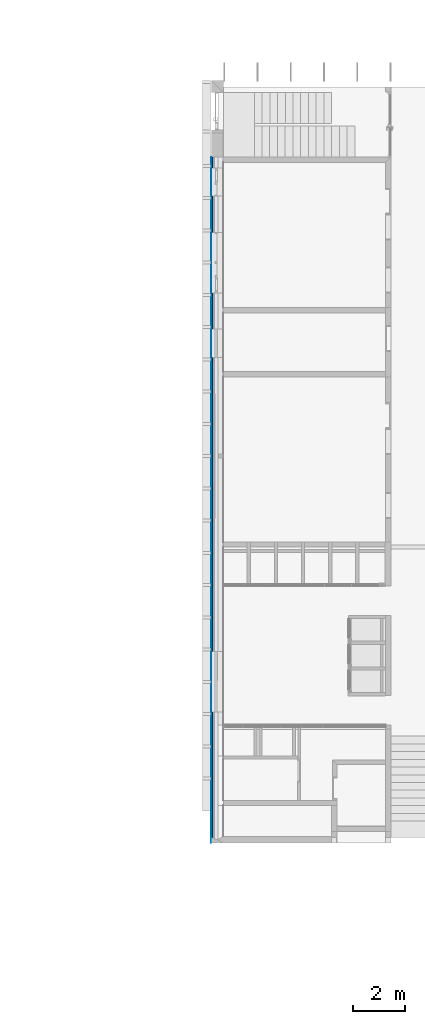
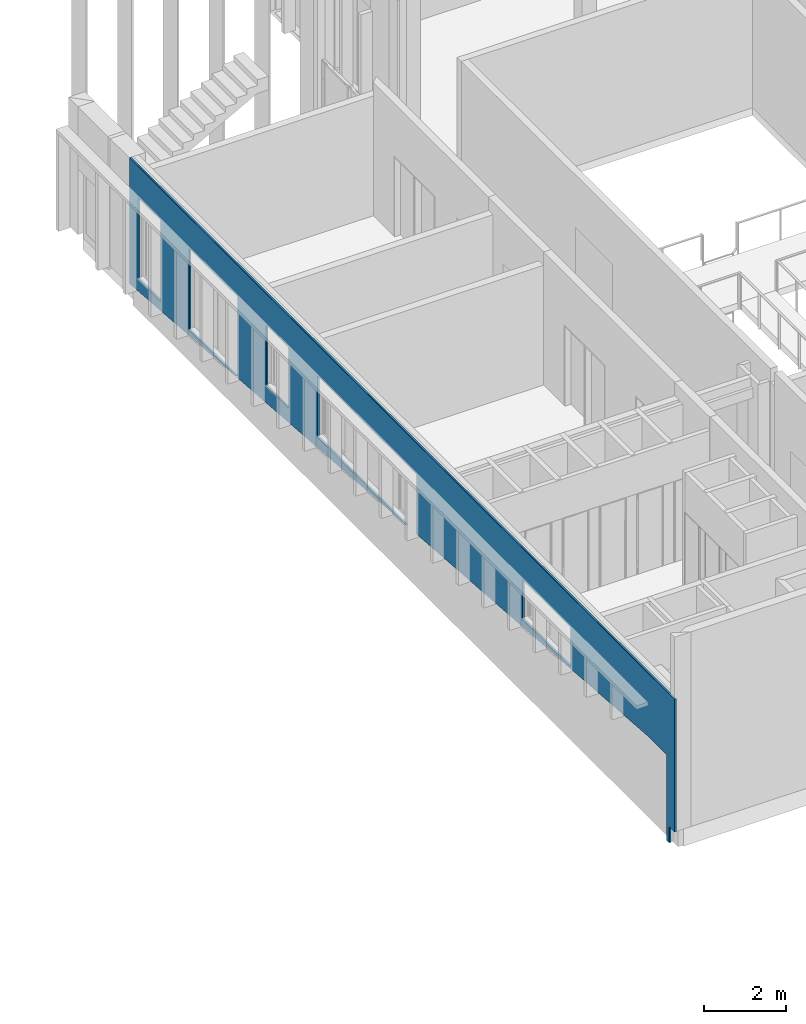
# One storey, part 81 of 89: 2 building element parts, 5 openings, 1 element without a shape of its own.
"""IFC2X3 building model written with IfcOpenShell, lengths in millimetres."""

from ifc_helpers import new_model, entity, si_unit, converted_unit, derived_unit, money_unit, direction, frame, origin_with_axes, origin_2d_with_axis, place, context, subcontext, project, spatial, polyline, rectangle, outline, extrude, boolean, faceted_brep, material, type_object, element, aggregate, save


model = new_model("IFC2X3")

# Units and contexts
model_context = context("Model", 3, precision=0.01, world=origin_with_axes(), true_north=direction((0.0, 1.0)))
body_context = subcontext(model_context, "Body", "Model", "MODEL_VIEW")
ifc_project = project(units=[si_unit("LENGTHUNIT", "METRE", prefix="MILLI"), si_unit("AREAUNIT", "SQUARE_METRE"), si_unit("VOLUMEUNIT", "CUBIC_METRE"), converted_unit("PLANEANGLEUNIT", "DEGREE", entity("IfcPlaneAngleMeasure", 0.0174532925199), si_unit("PLANEANGLEUNIT", "RADIAN"), dimensions=[0, 0, 0, 0, 0, 0, 0]), si_unit("SOLIDANGLEUNIT", "STERADIAN"), money_unit("EUR"), converted_unit("TIMEUNIT", "Year", entity("IfcTimeMeasure", 31556926.0), si_unit("TIMEUNIT", "SECOND"), dimensions=[0, 0, 1, 0, 0, 0, 0]), si_unit("MASSUNIT", "GRAM", prefix="KILO"), si_unit("THERMODYNAMICTEMPERATUREUNIT", "DEGREE_CELSIUS"), si_unit("LUMINOUSINTENSITYUNIT", "LUMEN"), si_unit("ENERGYUNIT", "JOULE", prefix="MEGA"), derived_unit("THERMALCONDUCTANCEUNIT", [(si_unit("POWERUNIT", "WATT"), 1), (si_unit("LENGTHUNIT", "METRE"), -1), (si_unit("THERMODYNAMICTEMPERATUREUNIT", "KELVIN"), -1)]), derived_unit("SPECIFICHEATCAPACITYUNIT", [(si_unit("ENERGYUNIT", "JOULE"), 1), (si_unit("MASSUNIT", "GRAM", prefix="KILO"), -1), (si_unit("THERMODYNAMICTEMPERATUREUNIT", "KELVIN"), -1)]), derived_unit("MASSDENSITYUNIT", [(si_unit("MASSUNIT", "GRAM", prefix="KILO"), 1), (si_unit("VOLUMEUNIT", "CUBIC_METRE"), -1)])], contexts=[model_context])

# Site, building, storey
site_placement = place(None, origin_with_axes())
site = spatial("IfcSite", under=ifc_project, at=site_placement, Name="Puškini 31, Narva", CompositionType="ELEMENT")
building_placement = place(site_placement, origin_with_axes())
building = spatial("IfcBuilding", under=site, at=building_placement, Name="Narva Riigigümnaasium", CompositionType="ELEMENT")
storey_placement = place(building_placement, frame((0.0, 0.0, -3300.0), z_axis=(0.0, 0.0, 1.0), x_axis=(1.0, 0.0, 0.0)))
storey = spatial("IfcBuildingStorey", under=building, at=storey_placement, Name="1.korrus -3.3", CompositionType="ELEMENT", Elevation=-3300.0)

# Wall, openings, building element parts
wall_type = type_object("IfcWallType", Name="G-VS-01 468", PredefinedType="NOTDEFINED")
wall_placement = place(storey_placement, frame((28400.0401775, 194950.0, -470.0), z_axis=(0.0, 0.0, 1.0), x_axis=(0.0, 1.0, 0.0)))
wall = element("IfcWall", 1, at=wall_placement, inside=storey, type_object=wall_type, Name="Välissein")
opening_1_placement = place(wall_placement, frame((22239.786406, 0.0, 1070.0), z_axis=(0.0, 0.0, 1.0), x_axis=(1.0, 0.0, 0.0)))
element("IfcOpeningElement", 2, at=opening_1_placement, cuts=wall, Name="G-A-13", context=body_context, shape_type="SweptSolid", body=[
    extrude(rectangle(XDim=2349.99999895, YDim=2430.0, at=origin_2d_with_axis()), frame((0.0, 308.0, 1215.0), z_axis=(0.0, -1.0, 0.0), x_axis=(1.0, 0.0, 0.0)), (0.0, 0.0, 1.0), 786.0),
    extrude(rectangle(XDim=2349.99999895, YDim=2430.0, at=origin_2d_with_axis()), frame((0.0, 308.0, 1215.0), z_axis=(0.0, 1.0, 0.0), x_axis=(1.0, 0.0, 0.0)), (0.0, 0.0, 1.0), 618.0),
])
opening_2_placement = place(wall_placement, frame((5989.77846398, 0.0, 2320.0), z_axis=(0.0, 0.0, 1.0), x_axis=(1.0, 0.0, 0.0)))
element("IfcOpeningElement", 3, at=opening_2_placement, cuts=wall, Name="G-A-31", context=body_context, shape_type="SweptSolid", body=[
    extrude(rectangle(XDim=2350.00149091, YDim=1180.0, at=origin_2d_with_axis()), frame((0.0, 308.0, 590.0), z_axis=(0.0, 1.0, 0.0), x_axis=(-1.0, 0.0, 0.0)), (0.0, 0.0, -1.0), 786.0),
    extrude(rectangle(XDim=2350.00149091, YDim=1180.0, at=origin_2d_with_axis()), frame((0.0, 308.0, 590.0), z_axis=(0.0, -1.0, 0.0), x_axis=(-1.0, 0.0, 0.0)), (0.0, 0.0, -1.0), 618.0),
])
opening_3_placement = place(wall_placement, frame((19114.7792041, 0.0, 1680.0), z_axis=(0.0, 0.0, 1.0), x_axis=(1.0, 0.0, 0.0)))
element("IfcOpeningElement", 4, at=opening_3_placement, cuts=wall, Name="G-A-28", context=body_context, shape_type="SweptSolid", body=[
    extrude(rectangle(XDim=1099.99999951, YDim=1820.0, at=origin_2d_with_axis()), frame((0.0, 308.0, 910.0), z_axis=(0.0, 1.0, 0.0), x_axis=(-1.0, 0.0, 0.0)), (0.0, 0.0, -1.0), 786.0),
    extrude(rectangle(XDim=1099.99999951, YDim=1820.0, at=origin_2d_with_axis()), frame((0.0, 308.0, 910.0), z_axis=(0.0, -1.0, 0.0), x_axis=(-1.0, 0.0, 0.0)), (0.0, 0.0, -1.0), 618.0),
])
opening_4_placement = place(wall_placement, frame((25364.7792014, 0.0, 1070.0), z_axis=(0.0, 0.0, 1.0), x_axis=(1.0, 0.0, 0.0)))
element("IfcOpeningElement", 5, at=opening_4_placement, cuts=wall, Name="G-A-03", context=body_context, shape_type="SweptSolid", body=[
    extrude(rectangle(XDim=1099.99999951, YDim=2430.0, at=origin_2d_with_axis()), frame((0.0, 308.0, 1215.0), z_axis=(0.0, 1.0, 0.0), x_axis=(-1.0, 0.0, 0.0)), (0.0, 0.0, -1.0), 786.0),
    extrude(rectangle(XDim=1099.99999951, YDim=2430.0, at=origin_2d_with_axis()), frame((0.0, 308.0, 1215.0), z_axis=(0.0, -1.0, 0.0), x_axis=(-1.0, 0.0, 0.0)), (0.0, 0.0, -1.0), 618.0),
])
opening_5_placement = place(wall_placement, frame((14739.7780345, 0.0, 1680.0), z_axis=(0.0, 0.0, 1.0), x_axis=(1.0, 0.0, 0.0)))
element("IfcOpeningElement", 6, at=opening_5_placement, cuts=wall, Name="G-A-32", context=body_context, shape_type="SweptSolid", body=[
    extrude(rectangle(XDim=4850.0, YDim=1820.0, at=origin_2d_with_axis()), frame((0.0, 308.0, 910.0), z_axis=(0.0, 1.0, 0.0), x_axis=(-1.0, 0.0, 0.0)), (0.0, 0.0, -1.0), 786.0),
    extrude(rectangle(XDim=4850.0, YDim=1820.0, at=origin_2d_with_axis()), frame((0.0, 308.0, 910.0), z_axis=(0.0, -1.0, 0.0), x_axis=(-1.0, 0.0, 0.0)), (0.0, 0.0, -1.0), 618.0),
])
ifc_material_1 = material(Name="Salto-roovitus")
building_element_part_1_placement = place(wall_placement, origin_with_axes())
solid_1 = boolean("DIFFERENCE", boolean("DIFFERENCE", boolean("DIFFERENCE", boolean("DIFFERENCE", boolean("DIFFERENCE", boolean("DIFFERENCE", boolean("DIFFERENCE", boolean("DIFFERENCE", extrude(outline(polyline([(-250.000000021, 400.0), (26329.9999995, 400.0), (26329.9999995, 450.0), (-250.000000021, 450.0), (-250.000000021, 400.0)])), frame((0.0, 0.0, -3.77662452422e-05), z_axis=(0.0, 0.0, 1.0), x_axis=(1.0, 0.0, 0.0)), (0.0, 0.0, 1.0), 4430.00003777), faceted_brep([(1190.52853669, 0.0, 4025.0), (1190.52853669, 0.0, 4430.0), (26329.9999995, 0.0, 4430.0), (26329.9999995, 0.0, -3.77662452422e-05), (-250.000000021, 0.0, -3.77662452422e-05), (-250.000000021, 0.0, 4430.0), (2.070521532e-07, 0.0, 4430.0), (2.070521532e-07, 0.0, 470.0), (1049.7643016, 0.0, 470.0), (1049.7643016, 0.0, 2544.59009685), (1199.99999458, 0.0, 2533.56443721), (1199.99999458, 0.0, 4025.0), (1399.99999458, 0.0, 2518.88662074), (3009.99970185, 0.0, 2400.73021962), (3009.99970185, 0.0, 4025.0), (1399.99999458, 0.0, 4025.0), (3109.99970185, 0.0, 2393.39131138), (11024.9997106, 0.0, 1812.51672386), (11024.9997106, 0.0, 4025.0), (9809.99971924, 0.0, 4025.0), (9809.99971924, 0.0, 2870.0), (9709.99971924, 0.0, 2870.0), (9709.99971924, 0.0, 4025.0), (4309.99971617, 0.0, 4025.0), (4309.99971617, 0.0, 2870.0), (4159.99971617, 0.0, 2870.0), (4159.99971617, 0.0, 4025.0), (3109.99970185, 0.0, 4025.0), (11115.4997106, 0.0, 1805.87501191), (11209.9997093, 0.0, 1798.93974372), (11209.9997107, 0.0, 4025.0), (11115.4997106, 0.0, 4025.0), (11409.9997107, 0.0, 1784.26192714), (17820.0010182, 0.0, 1313.83781325), (17820.0010182, 0.0, 4025.0), (11409.9997107, 0.0, 4025.0), (18020.0010182, 0.0, 1299.15999678), (20290.0000006, 0.0, 1132.56685451), (20290.0000006, 0.0, 4025.0), (18020.0010182, 0.0, 4025.0), (20500.0000006, 0.0, 1117.15514721), (26129.9999995, 0.0, 703.974613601), (26129.9999995, 0.0, 4025.0), (20500.0000006, 0.0, 4025.0), (1190.52734088, -10.0, 4025.0), (1190.52734088, -10.0, 4430.0), (26329.9999995, -10.0, 4430.0), (26329.9999995, -10.0, -3.77662452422e-05), (-250.000000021, -10.0, -3.77662452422e-05), (-250.000000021, -10.0, 4430.0), (2.070521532e-07, -10.0, 4430.0), (2.070521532e-07, -10.0, 470.0), (1049.7643016, -10.0, 470.0), (1049.7643016, -10.0, 2544.59009685), (1199.99999458, -10.0, 2533.56443721), (1199.99999458, -10.0, 4025.0), (1399.99999458, -10.0, 2518.88662074), (3009.99970185, -10.0, 2400.73021962), (3009.99970185, -10.0, 4025.0), (1399.99999458, -10.0, 4025.0), (3109.99970185, -10.0, 2393.39131138), (11024.9997106, -10.0, 1812.51672386), (11024.9997106, -10.0, 4025.0), (9809.99971924, -10.0, 4025.0), (9809.99971924, -10.0, 2870.0), (9709.99971924, -10.0, 2870.0), (9709.99971924, -10.0, 4025.0), (4309.99971617, -10.0, 4025.0), (4309.99971617, -10.0, 2870.0), (4159.99971617, -10.0, 2870.0), (4159.99971617, -10.0, 4025.0), (3109.99970185, -10.0, 4025.0), (11115.4997106, -10.0, 1805.87501191), (11209.9997093, -10.0, 1798.93974372), (11209.9997107, -10.0, 4025.0), (11115.4997106, -10.0, 4025.0), (11409.9997107, -10.0, 1784.26192714), (17820.0010182, -10.0, 1313.83781325), (17820.0010182, -10.0, 4025.0), (11409.9997107, -10.0, 4025.0), (18020.0010182, -10.0, 1299.15999678), (20290.0000006, -10.0, 1132.56685451), (20290.0000006, -10.0, 4025.0), (18020.0010182, -10.0, 4025.0), (20500.0000006, -10.0, 1117.15514721), (26129.9999995, -10.0, 703.974613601), (26129.9999995, -10.0, 4025.0), (20500.0000006, -10.0, 4025.0)], [[[0, 1, 2, 3, 4, 5, 6, 7, 8, 9, 10, 11], [12, 13, 14, 15], [16, 17, 18, 19, 20, 21, 22, 23, 24, 25, 26, 27], [28, 29, 30, 31], [32, 33, 34, 35], [36, 37, 38, 39], [40, 41, 42, 43]], [[44, 45, 1, 0]], [[1, 45, 46, 2]], [[2, 46, 47, 3]], [[3, 47, 48, 4]], [[49, 5, 4, 48]], [[50, 6, 5, 49]], [[6, 50, 51, 7]], [[51, 52, 8, 7]], [[52, 53, 9, 8]], [[53, 54, 10, 9]], [[54, 55, 11, 10]], [[55, 44, 0, 11]], [[56, 57, 13, 12]], [[57, 58, 14, 13]], [[58, 59, 15, 14]], [[59, 56, 12, 15]], [[60, 61, 17, 16]], [[61, 62, 18, 17]], [[62, 63, 19, 18]], [[63, 64, 20, 19]], [[64, 65, 21, 20]], [[65, 66, 22, 21]], [[66, 67, 23, 22]], [[67, 68, 24, 23]], [[68, 69, 25, 24]], [[69, 70, 26, 25]], [[70, 71, 27, 26]], [[71, 60, 16, 27]], [[72, 73, 29, 28]], [[73, 74, 30, 29]], [[74, 75, 31, 30]], [[75, 72, 28, 31]], [[76, 77, 33, 32]], [[77, 78, 34, 33]], [[78, 79, 35, 34]], [[79, 76, 32, 35]], [[80, 81, 37, 36]], [[81, 82, 38, 37]], [[82, 83, 39, 38]], [[83, 80, 36, 39]], [[84, 85, 41, 40]], [[85, 86, 42, 41]], [[86, 87, 43, 42]], [[87, 84, 40, 43]], [[45, 44, 55, 54, 53, 52, 51, 50, 49, 48, 47, 46], [64, 63, 62, 61, 60, 71, 70, 69, 68, 67, 66, 65], [56, 59, 58, 57], [72, 75, 74, 73], [76, 79, 78, 77], [80, 83, 82, 81], [84, 87, 86, 85]]])), faceted_brep([(0.0, 0.0, 0.0), (2.070521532e-07, 0.0, 470.0), (2.070521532e-07, 0.0, 4430.0), (-250.000000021, 0.0, 4430.0), (-250.000000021, 0.0, -3.77662452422e-05), (0.0, 200.0, 0.0), (2.070521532e-07, 200.0, 470.0), (2.070521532e-07, 200.0, 4430.0), (-250.000000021, 200.0, 4430.0), (-250.000000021, 200.0, -3.77662452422e-05)], [[[0, 1, 2, 3, 4]], [[1, 0, 5, 6]], [[7, 2, 1, 6]], [[2, 7, 8, 3]], [[3, 8, 9, 4]], [[5, 0, 4, 9]], [[6, 5, 9, 8, 7]]])), faceted_brep([(20500.0000006, 0.0, 4025.0), (26329.9999807, 0.0, 4025.0), (26329.9999995, 0.0, 4430.0), (1190.52853669, 0.0, 4430.0), (1190.52853669, 0.0, 4025.0), (20300.0000006, 0.0, 4025.0), (20300.0000006, 0.0, 1131.83296368), (20290.0000006, 0.0, 1132.56685451), (18020.0010182, 0.0, 1299.15999678), (17820.0010182, 0.0, 1313.83781325), (11409.9997107, 0.0, 1784.26192714), (11209.9997093, 0.0, 1798.93974372), (11115.4997106, 0.0, 1805.87501191), (11024.9997106, 0.0, 1812.51672386), (3109.99970185, 0.0, 2393.39131138), (3009.99970185, 0.0, 2400.73021962), (1399.99999458, 0.0, 2518.88662074), (1199.99999458, 0.0, 2533.56443721), (1049.7643016, 0.0, 2544.59009685), (1049.7643016, 0.0, 470.0), (1049.7643016, 0.0, 0.0), (26329.9999995, 0.0, -3.77662452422e-05), (26329.9999959, 0.0, 689.296797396), (26129.9999995, 0.0, 703.974613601), (20500.0000006, 0.0, 1117.15514721), (26329.9999807, 200.0, 4025.0), (20500.0000006, 0.53657374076, 4025.0), (20300.0000006, 0.53657374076, 4025.0), (1190.55245282, 200.0, 4025.0), (26329.9999995, 200.0, 4430.0), (1190.55245282, 200.0, 4430.0), (20300.0000006, 0.53657374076, 1131.83296368), (26329.9999974, 200.0, 689.29679728), (1049.7643016, 200.0, 2544.59009685), (1049.7643016, 76.496918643, 2544.59009685), (20500.0000006, 0.53657374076, 1117.15514721), (1049.7643016, 76.496918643, -3.77662452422e-05), (126.000000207, 76.496918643, -3.77662452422e-05), (126.000000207, 200.0, -3.77662452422e-05), (26329.9999995, 200.0, -3.77662452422e-05), (126.000000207, 200.0, 2544.59009685), (126.000000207, 76.496918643, 2544.59009685)], [[[0, 1, 2, 3, 4, 5, 6, 7, 8, 9, 10, 11, 12, 13, 14, 15, 16, 17, 18, 19, 20, 21, 22, 23, 24]], [[25, 1, 0, 26, 27, 5, 4, 28]], [[1, 25, 29, 2]], [[30, 3, 2, 29]], [[3, 30, 28, 4]], [[6, 5, 27, 31]], [[23, 22, 32, 33, 34, 18, 17, 16, 15, 14, 13, 12, 11, 10, 9, 8, 7, 6, 31, 35, 24]], [[19, 18, 34, 36, 20]], [[37, 38, 39, 21, 20, 36]], [[32, 22, 21, 39]], [[26, 0, 24, 35]], [[27, 26, 35, 31]], [[28, 30, 29, 25]], [[33, 32, 39, 38, 40]], [[33, 40, 41, 34]], [[37, 36, 34, 41]], [[38, 37, 41, 40]]])), faceted_brep([(14664.7643016, 25.3626792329, 3570.0), (14664.7643016, 25.3626792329, 1580.0), (14814.7643016, 25.3626792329, 1580.0), (14814.7643016, 25.3626792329, 3570.0), (14664.7643016, 175.362679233, 3570.0), (14664.7643016, 175.362679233, 1580.0), (14814.7643016, 175.362679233, 1580.0), (14814.7643016, 175.362679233, 3570.0)], [[[0, 1, 2, 3]], [[4, 5, 1, 0]], [[2, 1, 5, 6]], [[3, 2, 6, 7]], [[4, 0, 3, 7]], [[7, 6, 5, 4]]])), faceted_brep([(2.070521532e-07, 200.0, 470.0), (-249.999999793, 200.0, 470.0), (-250.000000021, 200.0, -3.77662452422e-05), (0.0, 200.0, 0.0), (5.17559328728e-08, 350.0, 470.0), (-249.999999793, 350.0, 470.0), (-250.000000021, 350.0, -3.77662452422e-05), (0.0, 350.0, 0.0)], [[[0, 1, 2, 3]], [[1, 0, 4, 5]], [[1, 5, 6, 2]], [[7, 3, 2, 6]], [[0, 3, 7, 4]], [[4, 7, 6, 5]]])), faceted_brep([(26329.9999986, 350.0, 689.296797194), (26329.9999974, 200.0, 689.29679728), (26329.9999995, 200.0, -3.77662452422e-05), (26329.9999995, 350.0, -3.77662452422e-05), (1049.7643016, 200.0, 2544.59009685), (1049.7643016, 350.0, 2544.59009685), (126.000000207, 200.0, 2544.59009685), (126.000000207, 200.0, -3.77662452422e-05), (126.000000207, 350.0, -3.77662452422e-05), (126.000000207, 350.0, 2544.59009685)], [[[0, 1, 2, 3]], [[4, 1, 0, 5]], [[6, 7, 2, 1, 4]], [[7, 8, 3, 2]], [[5, 0, 3, 8, 9]], [[6, 4, 5, 9]], [[7, 6, 9, 8]]])), faceted_brep([(1190.55245282, 200.0, 4430.0), (1190.55245282, 200.0, 4025.0), (26329.9999807, 200.0, 4025.0), (26329.9999995, 200.0, 4430.0), (1190.56670296, 319.167572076, 4430.0), (1190.56670296, 319.167572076, 4025.0), (26329.9999807, 200.721723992, 4025.0), (1550.00000039, 319.151333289, 4025.0), (5649.99999723, 318.966099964, 4025.0), (5649.99999723, 200.721723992, 4025.0), (26329.9999807, 200.721723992, 4430.0), (5649.99999723, 200.721723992, 4430.0), (5649.99999723, 319.15132641, 4430.0), (1550.00000039, 319.151333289, 4430.0), (1550.00000039, 319.151333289, 4290.0), (5649.99999723, 318.966099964, 4290.0), (5649.99999723, 319.15132641, 4290.0)], [[[0, 1, 2, 3]], [[0, 4, 5, 1]], [[6, 2, 1, 5, 7, 8, 9]], [[6, 10, 3, 2]], [[4, 0, 3, 10, 11, 12, 13]], [[4, 13, 14, 7, 5]], [[15, 8, 7, 14]], [[12, 11, 9, 8, 15, 16]], [[11, 10, 6, 9]], [[13, 12, 16, 14]], [[16, 15, 14]]])), faceted_brep([(5.17559328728e-08, 350.0, 470.0), (-249.999999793, 350.0, 470.0), (-250.000000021, 350.0, -3.77662452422e-05), (0.0, 350.0, 0.0), (0.0, 400.0, 470.0), (-249.999999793, 400.0, 470.0), (-250.000000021, 400.0, -3.77662452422e-05), (0.0, 400.0, 0.0)], [[[0, 1, 2, 3]], [[1, 0, 4, 5]], [[1, 5, 6, 2]], [[7, 3, 2, 6]], [[0, 3, 7, 4]], [[4, 7, 6, 5]]]))
building_element_part_1 = element("IfcBuildingElementPart", 7, at=building_element_part_1_placement, material=ifc_material_1, Name="Salto-roovitus", context=body_context, shape_type="CSG", body=[
    boolean("DIFFERENCE", boolean("DIFFERENCE", boolean("DIFFERENCE", boolean("DIFFERENCE", boolean("DIFFERENCE", solid_1, faceted_brep([(26329.999999, 400.0, 689.296797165), (26329.9999986, 350.0, 689.296797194), (26329.9999995, 350.0, -3.77662452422e-05), (26329.9999995, 400.0, -3.77662452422e-05), (1049.7643016, 350.0, 2544.59009685), (1049.7643016, 400.0, 2544.59009685), (126.000000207, 350.0, 2544.59009685), (126.000000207, 350.0, -3.77662452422e-05), (126.000000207, 400.0, -3.77662452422e-05), (126.000000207, 400.0, 2544.59009685)], [[[0, 1, 2, 3]], [[4, 1, 0, 5]], [[6, 7, 2, 1, 4]], [[7, 8, 3, 2]], [[5, 0, 3, 8, 9]], [[6, 4, 5, 9]], [[7, 6, 9, 8]]])), faceted_brep([(0.0, 400.0, 470.0), (-249.999999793, 400.0, 470.0), (-250.000000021, 400.0, -3.77662452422e-05), (0.0, 400.0, 0.0), (0.0, 450.0, 470.0), (-249.999999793, 450.0, 470.0), (-250.000000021, 450.0, -3.77662452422e-05), (0.0, 450.0, 0.0)], [[[0, 1, 2, 3]], [[1, 0, 4, 5]], [[1, 5, 6, 2]], [[7, 3, 2, 6]], [[0, 3, 7, 4]], [[4, 7, 6, 5]]])), faceted_brep([(26329.999999, 450.0, 689.296797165), (26329.999999, 400.0, 689.296797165), (26329.9999995, 400.0, -3.77662452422e-05), (26329.9999995, 450.0, -3.77662452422e-05), (1049.7643016, 400.0, 2544.59009685), (1049.7643016, 450.0, 2544.59009685), (126.000000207, 400.0, 2544.59009685), (126.000000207, 400.0, -3.77662452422e-05), (126.000000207, 450.0, -3.77662452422e-05), (126.000000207, 450.0, 2544.59009685)], [[[0, 1, 2, 3]], [[4, 1, 0, 5]], [[6, 7, 2, 1, 4]], [[7, 8, 3, 2]], [[5, 0, 3, 8, 9]], [[6, 4, 5, 9]], [[7, 6, 9, 8]]])), faceted_brep([(0.0, 450.0, 470.0), (-249.999999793, 450.0, 470.0), (-250.000000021, 450.0, -3.77662452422e-05), (0.0, 450.0, 0.0), (0.0, 458.000002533, 470.0), (-249.999999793, 458.000002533, 470.0), (-250.000000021, 458.0, -3.77662452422e-05), (0.0, 458.000002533, 0.0)], [[[0, 1, 2, 3]], [[1, 0, 4, 5]], [[1, 5, 6, 2]], [[7, 3, 2, 6]], [[0, 3, 7, 4]], [[4, 7, 6, 5]]])), faceted_brep([(26329.999999, 457.999977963, 689.296797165), (26329.999999, 450.0, 689.296797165), (26329.9999995, 450.0, -3.77662452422e-05), (26329.9999995, 458.0, -3.77662452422e-05), (1049.7643016, 450.0, 2544.59009685), (1049.7643016, 458.0, 2544.59009685), (126.000000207, 450.0, 2544.59009685), (126.000000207, 450.0, -3.77662452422e-05), (126.000000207, 458.000002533, -3.77662452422e-05), (126.000000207, 458.0, 2544.59009685)], [[[0, 1, 2, 3]], [[4, 1, 0, 5]], [[6, 7, 2, 1, 4]], [[7, 8, 3, 2]], [[5, 0, 3, 8, 9]], [[6, 4, 5, 9]], [[7, 6, 9, 8]]])),
])
ifc_material_2 = material(Name="fassaadiplaat")
building_element_part_2_placement = place(wall_placement, origin_with_axes())
solid_2 = boolean("DIFFERENCE", boolean("DIFFERENCE", boolean("DIFFERENCE", boolean("DIFFERENCE", boolean("DIFFERENCE", boolean("DIFFERENCE", boolean("DIFFERENCE", boolean("DIFFERENCE", extrude(outline(polyline([(-250.000000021, 450.0), (26329.9999995, 450.0), (26329.9999995, 458.0), (-250.000000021, 458.0), (-250.000000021, 450.0)])), frame((0.0, 0.0, -3.77662452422e-05), z_axis=(0.0, 0.0, 1.0), x_axis=(1.0, 0.0, 0.0)), (0.0, 0.0, 1.0), 4430.00003777), faceted_brep([(1190.52853669, 0.0, 4025.0), (1190.52853669, 0.0, 4430.0), (26329.9999995, 0.0, 4430.0), (26329.9999995, 0.0, -3.77662452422e-05), (-250.000000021, 0.0, -3.77662452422e-05), (-250.000000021, 0.0, 4430.0), (2.070521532e-07, 0.0, 4430.0), (2.070521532e-07, 0.0, 470.0), (1049.7643016, 0.0, 470.0), (1049.7643016, 0.0, 2544.59009685), (1199.99999458, 0.0, 2533.56443721), (1199.99999458, 0.0, 4025.0), (1399.99999458, 0.0, 2518.88662074), (3009.99970185, 0.0, 2400.73021962), (3009.99970185, 0.0, 4025.0), (1399.99999458, 0.0, 4025.0), (3109.99970185, 0.0, 2393.39131138), (11024.9997106, 0.0, 1812.51672386), (11024.9997106, 0.0, 4025.0), (9809.99971924, 0.0, 4025.0), (9809.99971924, 0.0, 2870.0), (9709.99971924, 0.0, 2870.0), (9709.99971924, 0.0, 4025.0), (4309.99971617, 0.0, 4025.0), (4309.99971617, 0.0, 2870.0), (4159.99971617, 0.0, 2870.0), (4159.99971617, 0.0, 4025.0), (3109.99970185, 0.0, 4025.0), (11115.4997106, 0.0, 1805.87501191), (11209.9997093, 0.0, 1798.93974372), (11209.9997107, 0.0, 4025.0), (11115.4997106, 0.0, 4025.0), (11409.9997107, 0.0, 1784.26192714), (17820.0010182, 0.0, 1313.83781325), (17820.0010182, 0.0, 4025.0), (11409.9997107, 0.0, 4025.0), (18020.0010182, 0.0, 1299.15999678), (20290.0000006, 0.0, 1132.56685451), (20290.0000006, 0.0, 4025.0), (18020.0010182, 0.0, 4025.0), (20500.0000006, 0.0, 1117.15514721), (26129.9999995, 0.0, 703.974613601), (26129.9999995, 0.0, 4025.0), (20500.0000006, 0.0, 4025.0), (1190.52734088, -10.0, 4025.0), (1190.52734088, -10.0, 4430.0), (26329.9999995, -10.0, 4430.0), (26329.9999995, -10.0, -3.77662452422e-05), (-250.000000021, -10.0, -3.77662452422e-05), (-250.000000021, -10.0, 4430.0), (2.070521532e-07, -10.0, 4430.0), (2.070521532e-07, -10.0, 470.0), (1049.7643016, -10.0, 470.0), (1049.7643016, -10.0, 2544.59009685), (1199.99999458, -10.0, 2533.56443721), (1199.99999458, -10.0, 4025.0), (1399.99999458, -10.0, 2518.88662074), (3009.99970185, -10.0, 2400.73021962), (3009.99970185, -10.0, 4025.0), (1399.99999458, -10.0, 4025.0), (3109.99970185, -10.0, 2393.39131138), (11024.9997106, -10.0, 1812.51672386), (11024.9997106, -10.0, 4025.0), (9809.99971924, -10.0, 4025.0), (9809.99971924, -10.0, 2870.0), (9709.99971924, -10.0, 2870.0), (9709.99971924, -10.0, 4025.0), (4309.99971617, -10.0, 4025.0), (4309.99971617, -10.0, 2870.0), (4159.99971617, -10.0, 2870.0), (4159.99971617, -10.0, 4025.0), (3109.99970185, -10.0, 4025.0), (11115.4997106, -10.0, 1805.87501191), (11209.9997093, -10.0, 1798.93974372), (11209.9997107, -10.0, 4025.0), (11115.4997106, -10.0, 4025.0), (11409.9997107, -10.0, 1784.26192714), (17820.0010182, -10.0, 1313.83781325), (17820.0010182, -10.0, 4025.0), (11409.9997107, -10.0, 4025.0), (18020.0010182, -10.0, 1299.15999678), (20290.0000006, -10.0, 1132.56685451), (20290.0000006, -10.0, 4025.0), (18020.0010182, -10.0, 4025.0), (20500.0000006, -10.0, 1117.15514721), (26129.9999995, -10.0, 703.974613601), (26129.9999995, -10.0, 4025.0), (20500.0000006, -10.0, 4025.0)], [[[0, 1, 2, 3, 4, 5, 6, 7, 8, 9, 10, 11], [12, 13, 14, 15], [16, 17, 18, 19, 20, 21, 22, 23, 24, 25, 26, 27], [28, 29, 30, 31], [32, 33, 34, 35], [36, 37, 38, 39], [40, 41, 42, 43]], [[44, 45, 1, 0]], [[1, 45, 46, 2]], [[2, 46, 47, 3]], [[3, 47, 48, 4]], [[49, 5, 4, 48]], [[50, 6, 5, 49]], [[6, 50, 51, 7]], [[51, 52, 8, 7]], [[52, 53, 9, 8]], [[53, 54, 10, 9]], [[54, 55, 11, 10]], [[55, 44, 0, 11]], [[56, 57, 13, 12]], [[57, 58, 14, 13]], [[58, 59, 15, 14]], [[59, 56, 12, 15]], [[60, 61, 17, 16]], [[61, 62, 18, 17]], [[62, 63, 19, 18]], [[63, 64, 20, 19]], [[64, 65, 21, 20]], [[65, 66, 22, 21]], [[66, 67, 23, 22]], [[67, 68, 24, 23]], [[68, 69, 25, 24]], [[69, 70, 26, 25]], [[70, 71, 27, 26]], [[71, 60, 16, 27]], [[72, 73, 29, 28]], [[73, 74, 30, 29]], [[74, 75, 31, 30]], [[75, 72, 28, 31]], [[76, 77, 33, 32]], [[77, 78, 34, 33]], [[78, 79, 35, 34]], [[79, 76, 32, 35]], [[80, 81, 37, 36]], [[81, 82, 38, 37]], [[82, 83, 39, 38]], [[83, 80, 36, 39]], [[84, 85, 41, 40]], [[85, 86, 42, 41]], [[86, 87, 43, 42]], [[87, 84, 40, 43]], [[45, 44, 55, 54, 53, 52, 51, 50, 49, 48, 47, 46], [64, 63, 62, 61, 60, 71, 70, 69, 68, 67, 66, 65], [56, 59, 58, 57], [72, 75, 74, 73], [76, 79, 78, 77], [80, 83, 82, 81], [84, 87, 86, 85]]])), faceted_brep([(0.0, 0.0, 0.0), (2.070521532e-07, 0.0, 470.0), (2.070521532e-07, 0.0, 4430.0), (-250.000000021, 0.0, 4430.0), (-250.000000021, 0.0, -3.77662452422e-05), (0.0, 200.0, 0.0), (2.070521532e-07, 200.0, 470.0), (2.070521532e-07, 200.0, 4430.0), (-250.000000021, 200.0, 4430.0), (-250.000000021, 200.0, -3.77662452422e-05)], [[[0, 1, 2, 3, 4]], [[1, 0, 5, 6]], [[7, 2, 1, 6]], [[2, 7, 8, 3]], [[3, 8, 9, 4]], [[5, 0, 4, 9]], [[6, 5, 9, 8, 7]]])), faceted_brep([(20500.0000006, 0.0, 4025.0), (26329.9999807, 0.0, 4025.0), (26329.9999995, 0.0, 4430.0), (1190.52853669, 0.0, 4430.0), (1190.52853669, 0.0, 4025.0), (20300.0000006, 0.0, 4025.0), (20300.0000006, 0.0, 1131.83296368), (20290.0000006, 0.0, 1132.56685451), (18020.0010182, 0.0, 1299.15999678), (17820.0010182, 0.0, 1313.83781325), (11409.9997107, 0.0, 1784.26192714), (11209.9997093, 0.0, 1798.93974372), (11115.4997106, 0.0, 1805.87501191), (11024.9997106, 0.0, 1812.51672386), (3109.99970185, 0.0, 2393.39131138), (3009.99970185, 0.0, 2400.73021962), (1399.99999458, 0.0, 2518.88662074), (1199.99999458, 0.0, 2533.56443721), (1049.7643016, 0.0, 2544.59009685), (1049.7643016, 0.0, 470.0), (1049.7643016, 0.0, 0.0), (26329.9999995, 0.0, -3.77662452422e-05), (26329.9999959, 0.0, 689.296797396), (26129.9999995, 0.0, 703.974613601), (20500.0000006, 0.0, 1117.15514721), (26329.9999807, 200.0, 4025.0), (20500.0000006, 0.53657374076, 4025.0), (20300.0000006, 0.53657374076, 4025.0), (1190.55245282, 200.0, 4025.0), (26329.9999995, 200.0, 4430.0), (1190.55245282, 200.0, 4430.0), (20300.0000006, 0.53657374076, 1131.83296368), (26329.9999974, 200.0, 689.29679728), (1049.7643016, 200.0, 2544.59009685), (1049.7643016, 76.496918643, 2544.59009685), (20500.0000006, 0.53657374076, 1117.15514721), (1049.7643016, 76.496918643, -3.77662452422e-05), (126.000000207, 76.496918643, -3.77662452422e-05), (126.000000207, 200.0, -3.77662452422e-05), (26329.9999995, 200.0, -3.77662452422e-05), (126.000000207, 200.0, 2544.59009685), (126.000000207, 76.496918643, 2544.59009685)], [[[0, 1, 2, 3, 4, 5, 6, 7, 8, 9, 10, 11, 12, 13, 14, 15, 16, 17, 18, 19, 20, 21, 22, 23, 24]], [[25, 1, 0, 26, 27, 5, 4, 28]], [[1, 25, 29, 2]], [[30, 3, 2, 29]], [[3, 30, 28, 4]], [[6, 5, 27, 31]], [[23, 22, 32, 33, 34, 18, 17, 16, 15, 14, 13, 12, 11, 10, 9, 8, 7, 6, 31, 35, 24]], [[19, 18, 34, 36, 20]], [[37, 38, 39, 21, 20, 36]], [[32, 22, 21, 39]], [[26, 0, 24, 35]], [[27, 26, 35, 31]], [[28, 30, 29, 25]], [[33, 32, 39, 38, 40]], [[33, 40, 41, 34]], [[37, 36, 34, 41]], [[38, 37, 41, 40]]])), faceted_brep([(14664.7643016, 25.3626792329, 3570.0), (14664.7643016, 25.3626792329, 1580.0), (14814.7643016, 25.3626792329, 1580.0), (14814.7643016, 25.3626792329, 3570.0), (14664.7643016, 175.362679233, 3570.0), (14664.7643016, 175.362679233, 1580.0), (14814.7643016, 175.362679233, 1580.0), (14814.7643016, 175.362679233, 3570.0)], [[[0, 1, 2, 3]], [[4, 5, 1, 0]], [[2, 1, 5, 6]], [[3, 2, 6, 7]], [[4, 0, 3, 7]], [[7, 6, 5, 4]]])), faceted_brep([(2.070521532e-07, 200.0, 470.0), (-249.999999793, 200.0, 470.0), (-250.000000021, 200.0, -3.77662452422e-05), (0.0, 200.0, 0.0), (5.17559328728e-08, 350.0, 470.0), (-249.999999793, 350.0, 470.0), (-250.000000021, 350.0, -3.77662452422e-05), (0.0, 350.0, 0.0)], [[[0, 1, 2, 3]], [[1, 0, 4, 5]], [[1, 5, 6, 2]], [[7, 3, 2, 6]], [[0, 3, 7, 4]], [[4, 7, 6, 5]]])), faceted_brep([(26329.9999986, 350.0, 689.296797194), (26329.9999974, 200.0, 689.29679728), (26329.9999995, 200.0, -3.77662452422e-05), (26329.9999995, 350.0, -3.77662452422e-05), (1049.7643016, 200.0, 2544.59009685), (1049.7643016, 350.0, 2544.59009685), (126.000000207, 200.0, 2544.59009685), (126.000000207, 200.0, -3.77662452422e-05), (126.000000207, 350.0, -3.77662452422e-05), (126.000000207, 350.0, 2544.59009685)], [[[0, 1, 2, 3]], [[4, 1, 0, 5]], [[6, 7, 2, 1, 4]], [[7, 8, 3, 2]], [[5, 0, 3, 8, 9]], [[6, 4, 5, 9]], [[7, 6, 9, 8]]])), faceted_brep([(1190.55245282, 200.0, 4430.0), (1190.55245282, 200.0, 4025.0), (26329.9999807, 200.0, 4025.0), (26329.9999995, 200.0, 4430.0), (1190.56670296, 319.167572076, 4430.0), (1190.56670296, 319.167572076, 4025.0), (26329.9999807, 200.721723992, 4025.0), (1550.00000039, 319.151333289, 4025.0), (5649.99999723, 318.966099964, 4025.0), (5649.99999723, 200.721723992, 4025.0), (26329.9999807, 200.721723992, 4430.0), (5649.99999723, 200.721723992, 4430.0), (5649.99999723, 319.15132641, 4430.0), (1550.00000039, 319.151333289, 4430.0), (1550.00000039, 319.151333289, 4290.0), (5649.99999723, 318.966099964, 4290.0), (5649.99999723, 319.15132641, 4290.0)], [[[0, 1, 2, 3]], [[0, 4, 5, 1]], [[6, 2, 1, 5, 7, 8, 9]], [[6, 10, 3, 2]], [[4, 0, 3, 10, 11, 12, 13]], [[4, 13, 14, 7, 5]], [[15, 8, 7, 14]], [[12, 11, 9, 8, 15, 16]], [[11, 10, 6, 9]], [[13, 12, 16, 14]], [[16, 15, 14]]])), faceted_brep([(5.17559328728e-08, 350.0, 470.0), (-249.999999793, 350.0, 470.0), (-250.000000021, 350.0, -3.77662452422e-05), (0.0, 350.0, 0.0), (0.0, 400.0, 470.0), (-249.999999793, 400.0, 470.0), (-250.000000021, 400.0, -3.77662452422e-05), (0.0, 400.0, 0.0)], [[[0, 1, 2, 3]], [[1, 0, 4, 5]], [[1, 5, 6, 2]], [[7, 3, 2, 6]], [[0, 3, 7, 4]], [[4, 7, 6, 5]]]))
building_element_part_2 = element("IfcBuildingElementPart", 8, at=building_element_part_2_placement, material=ifc_material_2, Name="fassaadiplaat", context=body_context, shape_type="CSG", body=[
    boolean("DIFFERENCE", boolean("DIFFERENCE", boolean("DIFFERENCE", boolean("DIFFERENCE", boolean("DIFFERENCE", solid_2, faceted_brep([(26329.999999, 400.0, 689.296797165), (26329.9999986, 350.0, 689.296797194), (26329.9999995, 350.0, -3.77662452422e-05), (26329.9999995, 400.0, -3.77662452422e-05), (1049.7643016, 350.0, 2544.59009685), (1049.7643016, 400.0, 2544.59009685), (126.000000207, 350.0, 2544.59009685), (126.000000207, 350.0, -3.77662452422e-05), (126.000000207, 400.0, -3.77662452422e-05), (126.000000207, 400.0, 2544.59009685)], [[[0, 1, 2, 3]], [[4, 1, 0, 5]], [[6, 7, 2, 1, 4]], [[7, 8, 3, 2]], [[5, 0, 3, 8, 9]], [[6, 4, 5, 9]], [[7, 6, 9, 8]]])), faceted_brep([(0.0, 400.0, 470.0), (-249.999999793, 400.0, 470.0), (-250.000000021, 400.0, -3.77662452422e-05), (0.0, 400.0, 0.0), (0.0, 450.0, 470.0), (-249.999999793, 450.0, 470.0), (-250.000000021, 450.0, -3.77662452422e-05), (0.0, 450.0, 0.0)], [[[0, 1, 2, 3]], [[1, 0, 4, 5]], [[1, 5, 6, 2]], [[7, 3, 2, 6]], [[0, 3, 7, 4]], [[4, 7, 6, 5]]])), faceted_brep([(26329.999999, 450.0, 689.296797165), (26329.999999, 400.0, 689.296797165), (26329.9999995, 400.0, -3.77662452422e-05), (26329.9999995, 450.0, -3.77662452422e-05), (1049.7643016, 400.0, 2544.59009685), (1049.7643016, 450.0, 2544.59009685), (126.000000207, 400.0, 2544.59009685), (126.000000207, 400.0, -3.77662452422e-05), (126.000000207, 450.0, -3.77662452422e-05), (126.000000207, 450.0, 2544.59009685)], [[[0, 1, 2, 3]], [[4, 1, 0, 5]], [[6, 7, 2, 1, 4]], [[7, 8, 3, 2]], [[5, 0, 3, 8, 9]], [[6, 4, 5, 9]], [[7, 6, 9, 8]]])), faceted_brep([(0.0, 450.0, 470.0), (-249.999999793, 450.0, 470.0), (-250.000000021, 450.0, -3.77662452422e-05), (0.0, 450.0, 0.0), (0.0, 458.000002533, 470.0), (-249.999999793, 458.000002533, 470.0), (-250.000000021, 458.0, -3.77662452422e-05), (0.0, 458.000002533, 0.0)], [[[0, 1, 2, 3]], [[1, 0, 4, 5]], [[1, 5, 6, 2]], [[7, 3, 2, 6]], [[0, 3, 7, 4]], [[4, 7, 6, 5]]])), faceted_brep([(26329.999999, 457.999977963, 689.296797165), (26329.999999, 450.0, 689.296797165), (26329.9999995, 450.0, -3.77662452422e-05), (26329.9999995, 458.0, -3.77662452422e-05), (1049.7643016, 450.0, 2544.59009685), (1049.7643016, 458.0, 2544.59009685), (126.000000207, 450.0, 2544.59009685), (126.000000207, 450.0, -3.77662452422e-05), (126.000000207, 458.000002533, -3.77662452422e-05), (126.000000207, 458.0, 2544.59009685)], [[[0, 1, 2, 3]], [[4, 1, 0, 5]], [[6, 7, 2, 1, 4]], [[7, 8, 3, 2]], [[5, 0, 3, 8, 9]], [[6, 4, 5, 9]], [[7, 6, 9, 8]]])),
])
aggregate(wall, [building_element_part_1, building_element_part_2])

save(model, "model.ifc")
